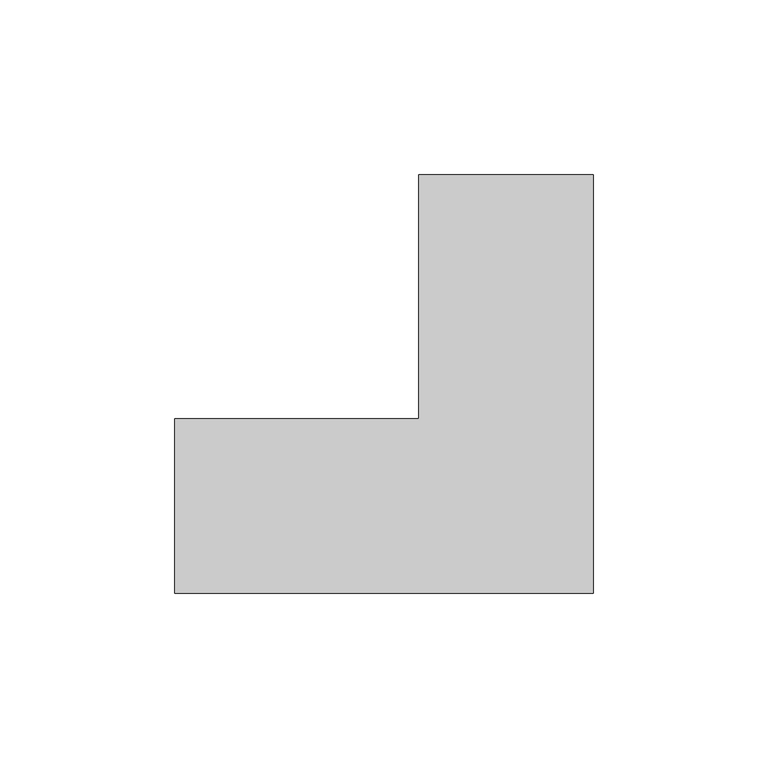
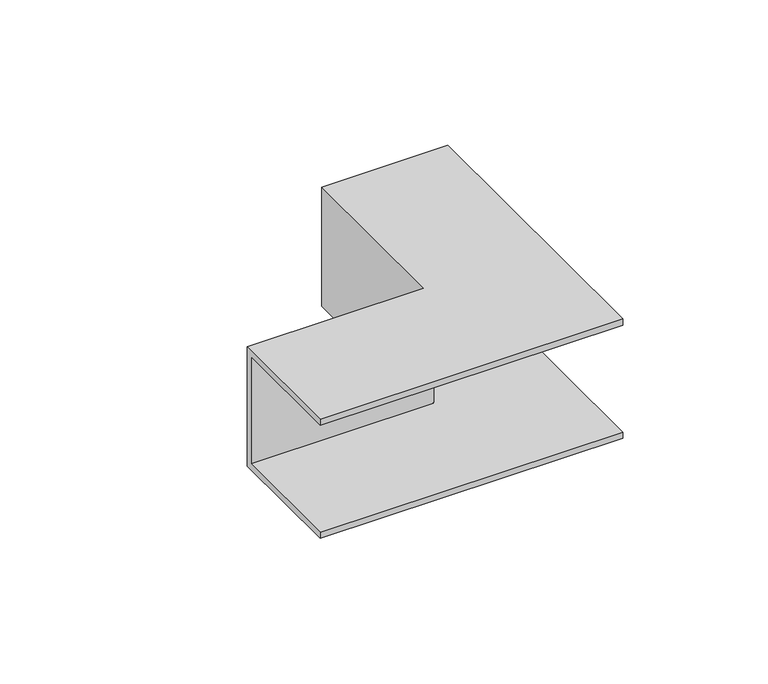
"""IFC4 building model written with IfcOpenShell, lengths in millimetres: cable carrier fitting geometry, CXER 50x50_Vertical_Outside_Bend-Basortray : Basortray CXER50-GS."""

from ifc_helpers import new_model, si_unit, origin, place, context, project, spatial, faceted_brep, source, transform, mapped, element, save


def cable_carrier_fitting_0c136e6a(model_context):
    return source(origin(), model_context, "Body", "Brep", [
        faceted_brep([(-95.0, -25.0, -25.0), (-95.0, -25.0, -22.46), (-95.0, 22.46, -22.46), (-95.0, 22.46, 22.46), (-95.0, -25.0, 22.46), (-95.0, -25.0, 25.0), (-95.0, 25.0, 25.0), (-95.0, 25.0, -25.0), (25.0, -25.0, 25.0), (25.0, 95.0, 25.0), (-25.0, 95.0, 25.0), (-25.0, 25.0, 25.0), (-22.46, 22.46, 22.46), (-22.46, 95.0, 22.46), (25.0, 95.0, 22.46), (25.0, -25.0, 22.46), (25.0, -25.0, -22.46), (25.0, 95.0, -22.46), (-22.46, 95.0, -22.46), (-22.46, 22.46, -22.46), (-25.0, 25.0, -25.0), (-25.0, 95.0, -25.0), (25.0, 95.0, -25.0), (25.0, -25.0, -25.0)], [[[0, 1, 2, 3, 4, 5, 6, 7]], [[6, 5, 8, 9, 10, 11]], [[4, 3, 12, 13, 14, 15]], [[2, 1, 16, 17, 18, 19]], [[0, 7, 20, 21, 22, 23]], [[22, 21, 10, 9, 14, 13, 18, 17]], [[1, 0, 23, 16]], [[3, 2, 19, 12]], [[5, 4, 15, 8]], [[7, 6, 11, 20]], [[16, 23, 22, 17]], [[12, 19, 18, 13]], [[8, 15, 14, 9]], [[20, 11, 10, 21]]]),
    ])


if __name__ == "__main__":
    model = new_model("IFC4")
    model_context = context("Model", 3, world=origin())
    ifc_project = project(units=[si_unit("LENGTHUNIT", "METRE", prefix="MILLI")], contexts=[model_context])
    site = spatial("IfcSite", under=ifc_project)
    building = spatial("IfcBuilding", under=site)
    placement = place(None, origin())
    cable_carrier_fitting_shape = cable_carrier_fitting_0c136e6a(model_context)
    element("IfcCableCarrierFitting", 1, ObjectType="CXER 50x50_Vertical_Outside_Bend-Basortray : Basortray CXER50-GS", at=placement, inside=building, context=model_context, shape_type="MappedRepresentation", body=[
        mapped(cable_carrier_fitting_shape, transform((0.0, 0.0, 0.0), x_axis=(1.0, 0.0, 0.0), y_axis=(0.0, 1.0, 0.0), z_axis=(0.0, 0.0, 1.0))),
    ])
    save(model, "model.ifc")
